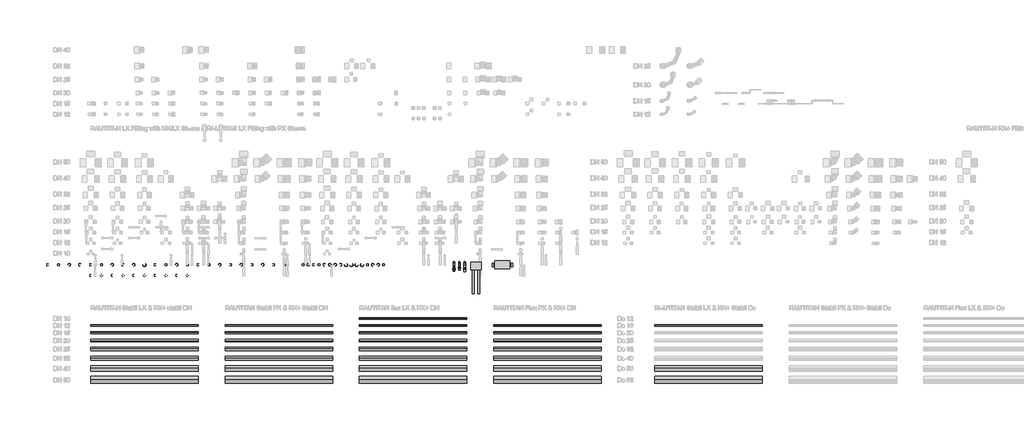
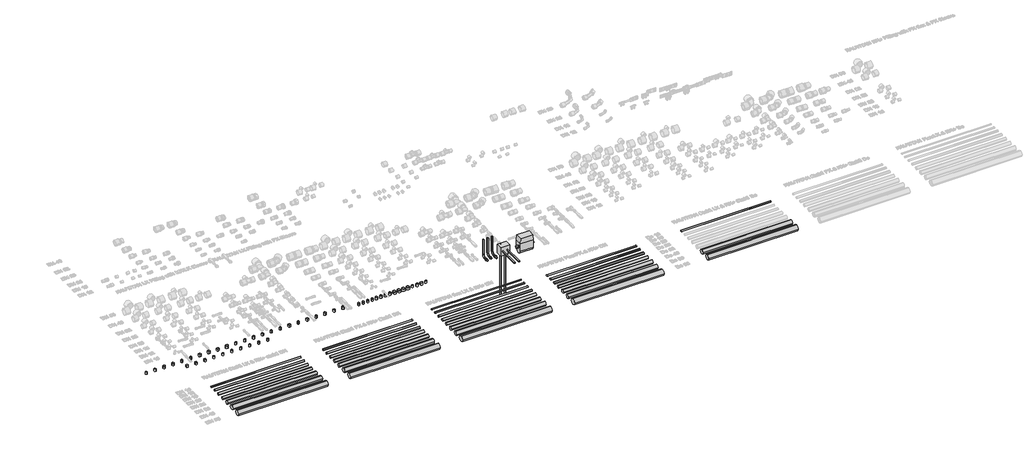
# One storey, part 1 of 18: 54 pipe fittings, 32 pipe segments.
"""IFC4 building model written with IfcOpenShell, lengths in millimetres."""

from ifc_helpers import new_model, si_unit, point, frame, frame_2d, origin, place, context, project, spatial, circle_curve, trimmed, segment, composite_curve, outline, extrude, transform, mapped, element, save
from components import pipe_fitting_8395c290, pipe_fitting_12adc400, pipe_fitting_81f8a68e, pipe_fitting_8ffa6d79, dn1_c9c9eba3, dn1_749d9a03, dn1_037c3912, rgd_206702d6

model = new_model("IFC4")

# Units and contexts
model_context = context("Model", 3, world=origin())
ifc_project = project(units=[si_unit("LENGTHUNIT", "METRE", prefix="MILLI")], contexts=[model_context])

# Site, building, storey
site = spatial("IfcSite", under=ifc_project)
building = spatial("IfcBuilding", under=site)
storey = spatial("IfcBuildingStorey", under=building, Name="REHAU Starting view", Elevation=0.0)

# Pipe fittings
placement = place(None, origin())
pipe_fitting_shape = pipe_fitting_8395c290(model_context)
element("IfcPipeFitting", 1, ObjectType="RAUTITAN_Radiator WAG16 Brass : RAUTITAN_Radiator WAG16 Brass", at=placement, inside=storey, context=model_context, shape_type="MappedRepresentation", body=[
    mapped(pipe_fitting_shape, transform((3380.0, -76.2688554, 0.0), x_axis=(1.0, 0.0, 0.0), y_axis=(0.0, 1.0, 0.0), z_axis=(0.0, 0.0, 1.0))),
])
pipe_fitting_2_shape = pipe_fitting_12adc400(model_context)
element("IfcPipeFitting", 2, ObjectType="RAUTITAN_Radiator WAG16 : RAUTITAN_Radiator WAG16", at=placement, inside=storey, context=model_context, shape_type="MappedRepresentation", body=[
    mapped(pipe_fitting_2_shape, transform((3430.0, -76.2688554, 0.0), x_axis=(1.0, 0.0, 0.0), y_axis=(0.0, 1.0, 0.0), z_axis=(0.0, 0.0, 1.0))),
])
pipe_fitting_3_shape = pipe_fitting_81f8a68e(model_context)
element("IfcPipeFitting", 3, ObjectType="RAUTITAN_Radiator WAG20 : RAUTITAN_Radiator WAG20", at=placement, inside=storey, context=model_context, shape_type="MappedRepresentation", body=[
    mapped(pipe_fitting_3_shape, transform((3480.0, -76.2688554, 0.0), x_axis=(1.0, 0.0, 0.0), y_axis=(0.0, 1.0, 0.0), z_axis=(0.0, 0.0, 1.0))),
])
pipe_fitting_4_shape = pipe_fitting_8ffa6d79(model_context)
element("IfcPipeFitting", 4, ObjectType="RAUTITAN_Radiatorconnection box : RAUTITAN_Radiatorconnection box", at=placement, inside=storey, context=model_context, shape_type="MappedRepresentation", body=[
    mapped(pipe_fitting_4_shape, transform((3585.0, -100.0, -500.0), x_axis=(1.0, 0.0, 0.0), y_axis=(0.0, 1.0, 0.0), z_axis=(0.0, 0.0, 1.0))),
])
dn1_shape = dn1_c9c9eba3(model_context)
element("IfcPipeFitting", 5, ObjectType="RAUTITAN_Sleeve PX : RTI S PX", at=placement, inside=storey, context=model_context, shape_type="MappedRepresentation", body=[
    mapped(dn1_shape, transform((100.0, -100.0, -25.5), x_axis=(0.0, 0.0, -1.0), y_axis=(0.0, 1.0, 0.0), z_axis=(1.0, 0.0, 0.0))),
])
element("IfcPipeFitting", 6, ObjectType="RAUTITAN_Sleeve PX : RTI S PX", at=placement, inside=storey, context=model_context, shape_type="MappedRepresentation", body=[
    mapped(dn1_shape, transform((600.0, -100.0, -25.5), x_axis=(0.0, 0.0, -1.0), y_axis=(0.0, 1.0, 0.0), z_axis=(1.0, 0.0, 0.0))),
])
element("IfcPipeFitting", 7, ObjectType="RAUTITAN_Sleeve PX : RTI S PX", at=placement, inside=storey, context=model_context, shape_type="MappedRepresentation", body=[
    mapped(dn1_shape, transform((699.9614721, -100.0, -25.5), x_axis=(0.0, 0.0, -1.0), y_axis=(0.0, 1.0, 0.0), z_axis=(1.0, 0.0, 0.0))),
])
element("IfcPipeFitting", 8, ObjectType="RAUTITAN_Sleeve PX : RTI S PX", at=placement, inside=storey, context=model_context, shape_type="MappedRepresentation", body=[
    mapped(dn1_shape, transform((899.8844163, -100.0, -25.5), x_axis=(0.0, 0.0, -1.0), y_axis=(0.0, 1.0, 0.0), z_axis=(1.0, 0.0, 0.0))),
])
element("IfcPipeFitting", 9, ObjectType="RAUTITAN_Sleeve PX : RTI S PX", at=placement, inside=storey, context=model_context, shape_type="MappedRepresentation", body=[
    mapped(dn1_shape, transform((999.8458884, -100.0, -25.5), x_axis=(0.0, 0.0, -1.0), y_axis=(0.0, 1.0, 0.0), z_axis=(1.0, 0.0, 0.0))),
])
element("IfcPipeFitting", 10, ObjectType="RAUTITAN_Sleeve PX : RTI S PX", at=placement, inside=storey, context=model_context, shape_type="MappedRepresentation", body=[
    mapped(dn1_shape, transform((1099.8073606, -100.0, -25.5), x_axis=(0.0, 0.0, -1.0), y_axis=(0.0, 1.0, 0.0), z_axis=(1.0, 0.0, 0.0))),
])
element("IfcPipeFitting", 11, ObjectType="RAUTITAN_Sleeve PX : RTI S PX", at=placement, inside=storey, context=model_context, shape_type="MappedRepresentation", body=[
    mapped(dn1_shape, transform((1299.7303048, -100.0, -25.5), x_axis=(0.0, 0.0, -1.0), y_axis=(0.0, 1.0, 0.0), z_axis=(1.0, 0.0, 0.0))),
])
element("IfcPipeFitting", 12, ObjectType="RAUTITAN_Sleeve PX : RTI S PX", at=placement, inside=storey, context=model_context, shape_type="MappedRepresentation", body=[
    mapped(dn1_shape, transform((1499.653249, -100.0, -25.5), x_axis=(0.0, 0.0, -1.0), y_axis=(0.0, 1.0, 0.0), z_axis=(1.0, 0.0, 0.0))),
])
element("IfcPipeFitting", 13, ObjectType="RAUTITAN_Sleeve PX : RTI S PX", at=placement, inside=storey, context=model_context, shape_type="MappedRepresentation", body=[
    mapped(dn1_shape, transform((1699.5761932, -100.0, -25.5), x_axis=(0.0, 0.0, -1.0), y_axis=(0.0, 1.0, 0.0), z_axis=(1.0, 0.0, 0.0))),
])
element("IfcPipeFitting", 14, ObjectType="RAUTITAN_Sleeve PX : RTI S PX", at=placement, inside=storey, context=model_context, shape_type="MappedRepresentation", body=[
    mapped(dn1_shape, transform((-400.0, -100.0, -25.5), x_axis=(0.0, 0.0, -1.0), y_axis=(0.0, 1.0, 0.0), z_axis=(1.0, 0.0, 0.0))),
])
element("IfcPipeFitting", 15, ObjectType="RAUTITAN_Sleeve PX : RTI S PX", at=placement, inside=storey, context=model_context, shape_type="MappedRepresentation", body=[
    mapped(dn1_shape, transform((0.0, -100.0, -25.5), x_axis=(0.0, 0.0, -1.0), y_axis=(0.0, 1.0, 0.0), z_axis=(1.0, 0.0, 0.0))),
])
element("IfcPipeFitting", 16, ObjectType="RAUTITAN_Sleeve PX : RTI S PX", at=placement, inside=storey, context=model_context, shape_type="MappedRepresentation", body=[
    mapped(dn1_shape, transform((-300.0, -100.0, -25.5), x_axis=(0.0, 0.0, -1.0), y_axis=(0.0, 1.0, 0.0), z_axis=(1.0, 0.0, 0.0))),
])
element("IfcPipeFitting", 17, ObjectType="RAUTITAN_Sleeve PX : RTI S PX", at=placement, inside=storey, context=model_context, shape_type="MappedRepresentation", body=[
    mapped(dn1_shape, transform((0.0, -200.0, -23.0), x_axis=(0.0, 0.0, -1.0), y_axis=(-1.0, 0.0, 0.0), z_axis=(0.0, 1.0, 0.0))),
])
element("IfcPipeFitting", 18, ObjectType="RAUTITAN_Sleeve PX : RTI S PX", at=placement, inside=storey, context=model_context, shape_type="MappedRepresentation", body=[
    mapped(dn1_shape, transform((100.0, -200.0, -24.3), x_axis=(0.0, 0.0, -1.0), y_axis=(-1.0, 0.0, 0.0), z_axis=(0.0, 1.0, 0.0))),
])
element("IfcPipeFitting", 19, ObjectType="RAUTITAN_Sleeve PX : RTI S PX", at=placement, inside=storey, context=model_context, shape_type="MappedRepresentation", body=[
    mapped(dn1_shape, transform((200.0, -200.0, -24.3), x_axis=(0.0, 0.0, -1.0), y_axis=(-1.0, 0.0, 0.0), z_axis=(0.0, 1.0, 0.0))),
])
element("IfcPipeFitting", 20, ObjectType="RAUTITAN_Sleeve PX : RTI S PX", at=placement, inside=storey, context=model_context, shape_type="MappedRepresentation", body=[
    mapped(dn1_shape, transform((300.0, -200.0, -24.3), x_axis=(0.0, 0.0, -1.0), y_axis=(-1.0, 0.0, 0.0), z_axis=(0.0, 1.0, 0.0))),
])
element("IfcPipeFitting", 21, ObjectType="RAUTITAN_Sleeve PX : RTI S PX", at=placement, inside=storey, context=model_context, shape_type="MappedRepresentation", body=[
    mapped(dn1_shape, transform((400.0, -200.0, -24.3), x_axis=(0.0, 0.0, -1.0), y_axis=(-1.0, 0.0, 0.0), z_axis=(0.0, 1.0, 0.0))),
])
element("IfcPipeFitting", 22, ObjectType="RAUTITAN_Sleeve PX : RTI S PX", at=placement, inside=storey, context=model_context, shape_type="MappedRepresentation", body=[
    mapped(dn1_shape, transform((500.0, -200.0, -22.3), x_axis=(0.0, 0.0, -1.0), y_axis=(-1.0, 0.0, 0.0), z_axis=(0.0, 1.0, 0.0))),
])
element("IfcPipeFitting", 23, ObjectType="RAUTITAN_Sleeve PX : RTI S PX", at=placement, inside=storey, context=model_context, shape_type="MappedRepresentation", body=[
    mapped(dn1_shape, transform((600.0, -200.0, -24.8), x_axis=(0.0, 0.0, -1.0), y_axis=(-1.0, 0.0, 0.0), z_axis=(0.0, 1.0, 0.0))),
])
element("IfcPipeFitting", 24, ObjectType="RAUTITAN_Sleeve PX : RTI S PX", at=placement, inside=storey, context=model_context, shape_type="MappedRepresentation", body=[
    mapped(dn1_shape, transform((699.9614721, -200.0, -24.8), x_axis=(0.0, 0.0, -1.0), y_axis=(-1.0, 0.0, 0.0), z_axis=(0.0, 1.0, 0.0))),
])
element("IfcPipeFitting", 25, ObjectType="RAUTITAN_Sleeve PX : RTI S PX", at=placement, inside=storey, context=model_context, shape_type="MappedRepresentation", body=[
    mapped(dn1_shape, transform((799.9229442, -200.0, -27.2), x_axis=(0.0, 0.0, -1.0), y_axis=(-1.0, 0.0, 0.0), z_axis=(0.0, 1.0, 0.0))),
])
element("IfcPipeFitting", 26, ObjectType="RAUTITAN_Sleeve PX : RTI S PX", at=placement, inside=storey, context=model_context, shape_type="MappedRepresentation", body=[
    mapped(dn1_shape, transform((899.8844163, -200.0, -27.6), x_axis=(0.0, 0.0, -1.0), y_axis=(-1.0, 0.0, 0.0), z_axis=(0.0, 1.0, 0.0))),
])
dn1_2_shape = dn1_749d9a03(model_context)
element("IfcPipeFitting", 27, ObjectType="RAUTITAN_Sleeve PX : RTI S PX", at=placement, inside=storey, context=model_context, shape_type="MappedRepresentation", body=[
    mapped(dn1_2_shape, transform((200.0, -100.0, -24.8), x_axis=(0.0, 0.0, -1.0), y_axis=(0.0, 1.0, 0.0), z_axis=(1.0, 0.0, 0.0))),
])
element("IfcPipeFitting", 28, ObjectType="RAUTITAN_Sleeve PX : RTI S PX", at=placement, inside=storey, context=model_context, shape_type="MappedRepresentation", body=[
    mapped(dn1_2_shape, transform((300.0, -100.0, -24.8), x_axis=(0.0, 0.0, -1.0), y_axis=(0.0, 1.0, 0.0), z_axis=(1.0, 0.0, 0.0))),
])
element("IfcPipeFitting", 29, ObjectType="RAUTITAN_Sleeve PX : RTI S PX", at=placement, inside=storey, context=model_context, shape_type="MappedRepresentation", body=[
    mapped(dn1_2_shape, transform((400.0, -100.0, -27.8), x_axis=(0.0, 0.0, -1.0), y_axis=(0.0, 1.0, 0.0), z_axis=(1.0, 0.0, 0.0))),
])
element("IfcPipeFitting", 30, ObjectType="RAUTITAN_Sleeve PX : RTI S PX", at=placement, inside=storey, context=model_context, shape_type="MappedRepresentation", body=[
    mapped(dn1_2_shape, transform((799.9229442, -100.0, -24.8), x_axis=(0.0, 0.0, -1.0), y_axis=(0.0, 1.0, 0.0), z_axis=(1.0, 0.0, 0.0))),
])
element("IfcPipeFitting", 31, ObjectType="RAUTITAN_Sleeve PX : RTI S PX", at=placement, inside=storey, context=model_context, shape_type="MappedRepresentation", body=[
    mapped(dn1_2_shape, transform((1199.7688327, -100.0, -24.8), x_axis=(0.0, 0.0, -1.0), y_axis=(0.0, 1.0, 0.0), z_axis=(1.0, 0.0, 0.0))),
])
element("IfcPipeFitting", 32, ObjectType="RAUTITAN_Sleeve PX : RTI S PX", at=placement, inside=storey, context=model_context, shape_type="MappedRepresentation", body=[
    mapped(dn1_2_shape, transform((1399.6917769, -100.0, -24.8), x_axis=(0.0, 0.0, -1.0), y_axis=(0.0, 1.0, 0.0), z_axis=(1.0, 0.0, 0.0))),
])
element("IfcPipeFitting", 33, ObjectType="RAUTITAN_Sleeve PX : RTI S PX", at=placement, inside=storey, context=model_context, shape_type="MappedRepresentation", body=[
    mapped(dn1_2_shape, transform((1599.6147211, -100.0, -24.8), x_axis=(0.0, 0.0, -1.0), y_axis=(0.0, 1.0, 0.0), z_axis=(1.0, 0.0, 0.0))),
])
element("IfcPipeFitting", 34, ObjectType="RAUTITAN_Sleeve PX : RTI S PX", at=placement, inside=storey, context=model_context, shape_type="MappedRepresentation", body=[
    mapped(dn1_2_shape, transform((1799.5376653, -100.0, -24.8), x_axis=(0.0, 0.0, -1.0), y_axis=(0.0, 1.0, 0.0), z_axis=(1.0, 0.0, 0.0))),
])
element("IfcPipeFitting", 35, ObjectType="RAUTITAN_Sleeve PX : RTI S PX", at=placement, inside=storey, context=model_context, shape_type="MappedRepresentation", body=[
    mapped(dn1_2_shape, transform((-200.0, -100.0, -24.8), x_axis=(0.0, 0.0, -1.0), y_axis=(0.0, 1.0, 0.0), z_axis=(1.0, 0.0, 0.0))),
])
element("IfcPipeFitting", 36, ObjectType="RAUTITAN_Sleeve PX : RTI S PX", at=placement, inside=storey, context=model_context, shape_type="MappedRepresentation", body=[
    mapped(dn1_2_shape, transform((-100.0, -100.0, -24.8), x_axis=(0.0, 0.0, -1.0), y_axis=(0.0, 1.0, 0.0), z_axis=(1.0, 0.0, 0.0))),
])
dn1_3_shape = dn1_037c3912(model_context)
element("IfcPipeFitting", 37, ObjectType="RAUTITAN_Sleeve PX : RTI S PX", at=placement, inside=storey, context=model_context, shape_type="MappedRepresentation", body=[
    mapped(dn1_3_shape, transform((500.0, -100.0, -27.5), x_axis=(0.0, 0.0, -1.0), y_axis=(0.0, 1.0, 0.0), z_axis=(1.0, 0.0, 0.0))),
])
element("IfcPipeFitting", 38, ObjectType="RAUTITAN_Sleeve PX : DN1", at=placement, inside=storey, context=model_context, shape_type="MappedRepresentation", body=[
    mapped(dn1_2_shape, transform((2174.5376653, -100.0, -43.8), x_axis=(0.0, 0.0, -1.0), y_axis=(-1.0, 0.0, 0.0), z_axis=(0.0, 1.0, 0.0))),
])
element("IfcPipeFitting", 39, ObjectType="RAUTITAN_Sleeve PX : DN1", at=placement, inside=storey, context=model_context, shape_type="MappedRepresentation", body=[
    mapped(dn1_2_shape, transform((2224.5376653, -100.0, -43.8), x_axis=(0.0, 0.0, -1.0), y_axis=(-1.0, 0.0, 0.0), z_axis=(0.0, 1.0, 0.0))),
])
element("IfcPipeFitting", 40, ObjectType="RAUTITAN_Sleeve PX : DN1", at=placement, inside=storey, context=model_context, shape_type="MappedRepresentation", body=[
    mapped(dn1_2_shape, transform((2274.5376653, -100.0, -43.8), x_axis=(0.0, 0.0, -1.0), y_axis=(-1.0, 0.0, 0.0), z_axis=(0.0, 1.0, 0.0))),
])
element("IfcPipeFitting", 41, ObjectType="RAUTITAN_Sleeve PX : DN1", at=placement, inside=storey, context=model_context, shape_type="MappedRepresentation", body=[
    mapped(dn1_2_shape, transform((2324.5376653, -100.0, -43.8), x_axis=(0.0, 0.0, -1.0), y_axis=(-1.0, 0.0, 0.0), z_axis=(0.0, 1.0, 0.0))),
])
element("IfcPipeFitting", 42, ObjectType="RAUTITAN_Sleeve PX : DN1", at=placement, inside=storey, context=model_context, shape_type="MappedRepresentation", body=[
    mapped(dn1_2_shape, transform((2624.5376653, -100.0, -43.8), x_axis=(0.0, 0.0, -1.0), y_axis=(-1.0, 0.0, 0.0), z_axis=(0.0, 1.0, 0.0))),
])
element("IfcPipeFitting", 43, ObjectType="RAUTITAN_Sleeve PX : DN1", at=placement, inside=storey, context=model_context, shape_type="MappedRepresentation", body=[
    mapped(dn1_2_shape, transform((2674.5376653, -100.0, -43.8), x_axis=(0.0, 0.0, -1.0), y_axis=(-1.0, 0.0, 0.0), z_axis=(0.0, 1.0, 0.0))),
])
element("IfcPipeFitting", 44, ObjectType="RAUTITAN_Sleeve PX : DN1", at=placement, inside=storey, context=model_context, shape_type="MappedRepresentation", body=[
    mapped(dn1_shape, transform((1974.5376653, -100.0, -43.3), x_axis=(0.0, 0.0, -1.0), y_axis=(-1.0, 0.0, 0.0), z_axis=(0.0, 1.0, 0.0))),
])
element("IfcPipeFitting", 45, ObjectType="RAUTITAN_Sleeve PX : DN1", at=placement, inside=storey, context=model_context, shape_type="MappedRepresentation", body=[
    mapped(dn1_shape, transform((2024.5376653, -100.0, -43.3), x_axis=(0.0, 0.0, -1.0), y_axis=(-1.0, 0.0, 0.0), z_axis=(0.0, 1.0, 0.0))),
])
element("IfcPipeFitting", 46, ObjectType="RAUTITAN_Sleeve PX : DN1", at=placement, inside=storey, context=model_context, shape_type="MappedRepresentation", body=[
    mapped(dn1_shape, transform((2074.5376653, -100.0, -43.3), x_axis=(0.0, 0.0, -1.0), y_axis=(-1.0, 0.0, 0.0), z_axis=(0.0, 1.0, 0.0))),
])
element("IfcPipeFitting", 47, ObjectType="RAUTITAN_Sleeve PX : DN1", at=placement, inside=storey, context=model_context, shape_type="MappedRepresentation", body=[
    mapped(dn1_shape, transform((2124.5376653, -100.0, -43.3), x_axis=(0.0, 0.0, -1.0), y_axis=(-1.0, 0.0, 0.0), z_axis=(0.0, 1.0, 0.0))),
])
element("IfcPipeFitting", 48, ObjectType="RAUTITAN_Sleeve PX : DN1", at=placement, inside=storey, context=model_context, shape_type="MappedRepresentation", body=[
    mapped(dn1_shape, transform((2574.5376653, -100.0, -43.3), x_axis=(0.0, 0.0, -1.0), y_axis=(-1.0, 0.0, 0.0), z_axis=(0.0, 1.0, 0.0))),
])
element("IfcPipeFitting", 49, ObjectType="RAUTITAN_Sleeve PX : DN1", at=placement, inside=storey, context=model_context, shape_type="MappedRepresentation", body=[
    mapped(dn1_shape, transform((2724.5376653, -100.0, -43.3), x_axis=(0.0, 0.0, -1.0), y_axis=(-1.0, 0.0, 0.0), z_axis=(0.0, 1.0, 0.0))),
])
element("IfcPipeFitting", 50, ObjectType="RAUTITAN_Sleeve PX : DN1", at=placement, inside=storey, context=model_context, shape_type="MappedRepresentation", body=[
    mapped(dn1_3_shape, transform((2374.5376653, -100.0, -44.2), x_axis=(0.0, 0.0, -1.0), y_axis=(-1.0, 0.0, 0.0), z_axis=(0.0, 1.0, 0.0))),
])
element("IfcPipeFitting", 51, ObjectType="RAUTITAN_Sleeve PX : DN1", at=placement, inside=storey, context=model_context, shape_type="MappedRepresentation", body=[
    mapped(dn1_3_shape, transform((2424.5376653, -100.0, -44.2), x_axis=(0.0, 0.0, -1.0), y_axis=(-1.0, 0.0, 0.0), z_axis=(0.0, 1.0, 0.0))),
])
element("IfcPipeFitting", 52, ObjectType="RAUTITAN_Sleeve PX : DN1", at=placement, inside=storey, context=model_context, shape_type="MappedRepresentation", body=[
    mapped(dn1_3_shape, transform((2474.5376653, -100.0, -44.2), x_axis=(0.0, 0.0, -1.0), y_axis=(-1.0, 0.0, 0.0), z_axis=(0.0, 1.0, 0.0))),
])
element("IfcPipeFitting", 53, ObjectType="RAUTITAN_Sleeve PX : DN1", at=placement, inside=storey, context=model_context, shape_type="MappedRepresentation", body=[
    mapped(dn1_3_shape, transform((2524.5376653, -100.0, -44.2), x_axis=(0.0, 0.0, -1.0), y_axis=(-1.0, 0.0, 0.0), z_axis=(0.0, 1.0, 0.0))),
])
rgd_shape = rgd_206702d6(model_context)
element("IfcPipeFitting", 54, ObjectType="RE.GUARD : RGD", at=placement, inside=storey, context=model_context, shape_type="MappedRepresentation", body=[
    mapped(rgd_shape, transform((3830.0, -115.0294975, 0.0), x_axis=(1.0, 0.0, 0.0), y_axis=(0.0, 1.0, 0.0), z_axis=(0.0, 0.0, 1.0))),
])

# Pipe segments
element("IfcPipeSegment", 55, ObjectType="RAUTITAN Stabil LX & RX+ stabil DN", at=placement, inside=storey, context=model_context, shape_type="SweptSolid", body=[
    extrude(outline(composite_curve([segment(trimmed(circle_curve(frame_2d((-664.1, 0.0)), 8.1), [point((-672.2, 0.0))], [point((-664.1, 8.1))], False, "CARTESIAN"), True, "CONTINUOUS"), segment(trimmed(circle_curve(frame_2d((-664.1, 0.0)), 8.1), [point((-664.1, 8.1))], [point((-656.0, 0.0))], False, "CARTESIAN"), True, "CONTINUOUS"), segment(trimmed(circle_curve(frame_2d((-664.1, 0.0)), 8.1), [point((-656.0, 0.0))], [point((-664.1, -8.1))], False, "CARTESIAN"), True, "CONTINUOUS"), segment(trimmed(circle_curve(frame_2d((-664.1, 0.0)), 8.1), [point((-664.1, -8.1))], [point((-672.2, 0.0))], False, "CARTESIAN"), True, "CONTINUOUS")], self_intersect=False)), frame((0.0, 0.0, 0.0), z_axis=(1.0, 0.0, 0.0), x_axis=(0.0, 1.0, 0.0)), (0.0, 0.0, 1.0), 1000.0),
])
element("IfcPipeSegment", 56, ObjectType="RAUTITAN flex LX & RX+ DN", at=placement, inside=storey, context=model_context, shape_type="SweptSolid", body=[
    extrude(outline(composite_curve([segment(trimmed(circle_curve(frame_2d((-600.0, 0.0)), 6.0), [point((-606.0, 0.0))], [point((-600.0, 6.0))], False, "CARTESIAN"), True, "CONTINUOUS"), segment(trimmed(circle_curve(frame_2d((-600.0, 0.0)), 6.0), [point((-600.0, 6.0))], [point((-594.0, 0.0))], False, "CARTESIAN"), True, "CONTINUOUS"), segment(trimmed(circle_curve(frame_2d((-600.0, 0.0)), 6.0), [point((-594.0, 0.0))], [point((-600.0, -6.0))], False, "CARTESIAN"), True, "CONTINUOUS"), segment(trimmed(circle_curve(frame_2d((-600.0, 0.0)), 6.0), [point((-600.0, -6.0))], [point((-606.0, 0.0))], False, "CARTESIAN"), True, "CONTINUOUS")], self_intersect=False)), frame((2500.0, 0.0, 0.0), z_axis=(1.0, 0.0, 0.0), x_axis=(0.0, 1.0, 0.0)), (0.0, 0.0, 1.0), 1000.0),
])
element("IfcPipeSegment", 57, ObjectType="RAUTITAN Stabil LX & RX+ stabil DN", at=placement, inside=storey, context=model_context, shape_type="SweptSolid", body=[
    extrude(outline(composite_curve([segment(trimmed(circle_curve(frame_2d((-732.2, 0.0)), 10.0), [point((-742.2, 0.0))], [point((-732.2, 10.0))], False, "CARTESIAN"), True, "CONTINUOUS"), segment(trimmed(circle_curve(frame_2d((-732.2, 0.0)), 10.0), [point((-732.2, 10.0))], [point((-722.2, 0.0))], False, "CARTESIAN"), True, "CONTINUOUS"), segment(trimmed(circle_curve(frame_2d((-732.2, 0.0)), 10.0), [point((-722.2, 0.0))], [point((-732.2, -10.0))], False, "CARTESIAN"), True, "CONTINUOUS"), segment(trimmed(circle_curve(frame_2d((-732.2, 0.0)), 10.0), [point((-732.2, -10.0))], [point((-742.2, 0.0))], False, "CARTESIAN"), True, "CONTINUOUS")], self_intersect=False)), frame((0.0, 0.0, 0.0), z_axis=(1.0, 0.0, 0.0), x_axis=(0.0, 1.0, 0.0)), (0.0, 0.0, 1.0), 1000.0),
])
element("IfcPipeSegment", 58, ObjectType="RAUTITAN Stabil LX & RX+ stabil DN", at=placement, inside=storey, context=model_context, shape_type="SweptSolid", body=[
    extrude(outline(composite_curve([segment(trimmed(circle_curve(frame_2d((-804.7, 0.0)), 12.5), [point((-817.2, 0.0))], [point((-804.7, 12.5))], False, "CARTESIAN"), True, "CONTINUOUS"), segment(trimmed(circle_curve(frame_2d((-804.7, 0.0)), 12.5), [point((-804.7, 12.5))], [point((-792.2, 0.0))], False, "CARTESIAN"), True, "CONTINUOUS"), segment(trimmed(circle_curve(frame_2d((-804.7, 0.0)), 12.5), [point((-792.2, 0.0))], [point((-804.7, -12.5))], False, "CARTESIAN"), True, "CONTINUOUS"), segment(trimmed(circle_curve(frame_2d((-804.7, 0.0)), 12.5), [point((-804.7, -12.5))], [point((-817.2, 0.0))], False, "CARTESIAN"), True, "CONTINUOUS")], self_intersect=False)), frame((0.0, 0.0, 0.0), z_axis=(1.0, 0.0, 0.0), x_axis=(0.0, 1.0, 0.0)), (0.0, 0.0, 1.0), 1000.0),
])
element("IfcPipeSegment", 59, ObjectType="RAUTITAN Stabil LX & RX+ stabil DN", at=placement, inside=storey, context=model_context, shape_type="SweptSolid", body=[
    extrude(outline(composite_curve([segment(trimmed(circle_curve(frame_2d((-969.2, 0.0)), 20.0), [point((-989.2, 0.0))], [point((-969.2, 20.0))], False, "CARTESIAN"), True, "CONTINUOUS"), segment(trimmed(circle_curve(frame_2d((-969.2, 0.0)), 20.0), [point((-969.2, 20.0))], [point((-949.2, 0.0))], False, "CARTESIAN"), True, "CONTINUOUS"), segment(trimmed(circle_curve(frame_2d((-969.2, 0.0)), 20.0), [point((-949.2, 0.0))], [point((-969.2, -20.0))], False, "CARTESIAN"), True, "CONTINUOUS"), segment(trimmed(circle_curve(frame_2d((-969.2, 0.0)), 20.0), [point((-969.2, -20.0))], [point((-989.2, 0.0))], False, "CARTESIAN"), True, "CONTINUOUS")], self_intersect=False)), frame((0.0, 0.0, 0.0), z_axis=(1.0, 0.0, 0.0), x_axis=(0.0, 1.0, 0.0)), (0.0, 0.0, 1.0), 1000.0),
])
element("IfcPipeSegment", 60, ObjectType="RAUTITAN Stabil LX & RX+ stabil DN", at=placement, inside=storey, context=model_context, shape_type="SweptSolid", body=[
    extrude(outline(composite_curve([segment(trimmed(circle_curve(frame_2d((-1064.2, 0.0)), 25.0), [point((-1089.2, 0.0))], [point((-1064.2, 25.0))], False, "CARTESIAN"), True, "CONTINUOUS"), segment(trimmed(circle_curve(frame_2d((-1064.2, 0.0)), 25.0), [point((-1064.2, 25.0))], [point((-1039.2, 0.0))], False, "CARTESIAN"), True, "CONTINUOUS"), segment(trimmed(circle_curve(frame_2d((-1064.2, 0.0)), 25.0), [point((-1039.2, 0.0))], [point((-1064.2, -25.0))], False, "CARTESIAN"), True, "CONTINUOUS"), segment(trimmed(circle_curve(frame_2d((-1064.2, 0.0)), 25.0), [point((-1064.2, -25.0))], [point((-1089.2, 0.0))], False, "CARTESIAN"), True, "CONTINUOUS")], self_intersect=False)), frame((0.0, 0.0, 0.0), z_axis=(1.0, 0.0, 0.0), x_axis=(0.0, 1.0, 0.0)), (0.0, 0.0, 1.0), 1000.0),
])
element("IfcPipeSegment", 61, ObjectType="RAUTITAN Stabil LX & RX+ stabil DN", at=placement, inside=storey, context=model_context, shape_type="SweptSolid", body=[
    extrude(outline(composite_curve([segment(trimmed(circle_curve(frame_2d((-1170.7, 0.0)), 31.5), [point((-1202.2, 0.0))], [point((-1170.7, 31.5))], False, "CARTESIAN"), True, "CONTINUOUS"), segment(trimmed(circle_curve(frame_2d((-1170.7, 0.0)), 31.5), [point((-1170.7, 31.5))], [point((-1139.2, 0.0))], False, "CARTESIAN"), True, "CONTINUOUS"), segment(trimmed(circle_curve(frame_2d((-1170.7, 0.0)), 31.5), [point((-1139.2, 0.0))], [point((-1170.7, -31.5))], False, "CARTESIAN"), True, "CONTINUOUS"), segment(trimmed(circle_curve(frame_2d((-1170.7, 0.0)), 31.5), [point((-1170.7, -31.5))], [point((-1202.2, 0.0))], False, "CARTESIAN"), True, "CONTINUOUS")], self_intersect=False)), frame((0.0, 0.0, 0.0), z_axis=(1.0, 0.0, 0.0), x_axis=(0.0, 1.0, 0.0)), (0.0, 0.0, 1.0), 1000.0),
])
element("IfcPipeSegment", 62, ObjectType="RAUTITAN Stabil LX & RX+ stabil DN", at=placement, inside=storey, context=model_context, shape_type="SweptSolid", body=[
    extrude(outline(composite_curve([segment(trimmed(circle_curve(frame_2d((-883.2, 0.0)), 16.0), [point((-899.2, 0.0))], [point((-883.2, 16.0))], False, "CARTESIAN"), True, "CONTINUOUS"), segment(trimmed(circle_curve(frame_2d((-883.2, 0.0)), 16.0), [point((-883.2, 16.0))], [point((-867.2, 0.0))], False, "CARTESIAN"), True, "CONTINUOUS"), segment(trimmed(circle_curve(frame_2d((-883.2, 0.0)), 16.0), [point((-867.2, 0.0))], [point((-883.2, -16.0))], False, "CARTESIAN"), True, "CONTINUOUS"), segment(trimmed(circle_curve(frame_2d((-883.2, 0.0)), 16.0), [point((-883.2, -16.0))], [point((-899.2, 0.0))], False, "CARTESIAN"), True, "CONTINUOUS")], self_intersect=False)), frame((0.0, 0.0, 0.0), z_axis=(1.0, 0.0, 0.0), x_axis=(0.0, 1.0, 0.0)), (0.0, 0.0, 1.0), 1000.0),
])
element("IfcPipeSegment", 63, ObjectType="RAUTITAN flex LX & RX+ DN", at=placement, inside=storey, context=model_context, shape_type="SweptSolid", body=[
    extrude(outline(composite_curve([segment(trimmed(circle_curve(frame_2d((-664.1, 0.0)), 8.0), [point((-672.1, 0.0))], [point((-664.1, 8.0))], False, "CARTESIAN"), True, "CONTINUOUS"), segment(trimmed(circle_curve(frame_2d((-664.1, 0.0)), 8.0), [point((-664.1, 8.0))], [point((-656.1, 0.0))], False, "CARTESIAN"), True, "CONTINUOUS"), segment(trimmed(circle_curve(frame_2d((-664.1, 0.0)), 8.0), [point((-656.1, 0.0))], [point((-664.1, -8.0))], False, "CARTESIAN"), True, "CONTINUOUS"), segment(trimmed(circle_curve(frame_2d((-664.1, 0.0)), 8.0), [point((-664.1, -8.0))], [point((-672.1, 0.0))], False, "CARTESIAN"), True, "CONTINUOUS")], self_intersect=False)), frame((2500.0, 0.0, 0.0), z_axis=(1.0, 0.0, 0.0), x_axis=(0.0, 1.0, 0.0)), (0.0, 0.0, 1.0), 1000.0),
])
element("IfcPipeSegment", 64, ObjectType="RAUTITAN flex LX & RX+ DN", at=placement, inside=storey, context=model_context, shape_type="SweptSolid", body=[
    extrude(outline(composite_curve([segment(trimmed(circle_curve(frame_2d((-732.2, 0.0)), 10.0), [point((-742.2, 0.0))], [point((-732.2, 10.0))], False, "CARTESIAN"), True, "CONTINUOUS"), segment(trimmed(circle_curve(frame_2d((-732.2, 0.0)), 10.0), [point((-732.2, 10.0))], [point((-722.2, 0.0))], False, "CARTESIAN"), True, "CONTINUOUS"), segment(trimmed(circle_curve(frame_2d((-732.2, 0.0)), 10.0), [point((-722.2, 0.0))], [point((-732.2, -10.0))], False, "CARTESIAN"), True, "CONTINUOUS"), segment(trimmed(circle_curve(frame_2d((-732.2, 0.0)), 10.0), [point((-732.2, -10.0))], [point((-742.2, 0.0))], False, "CARTESIAN"), True, "CONTINUOUS")], self_intersect=False)), frame((2500.0, 0.0, 0.0), z_axis=(1.0, 0.0, 0.0), x_axis=(0.0, 1.0, 0.0)), (0.0, 0.0, 1.0), 1000.0),
])
element("IfcPipeSegment", 65, ObjectType="RAUTITAN flex LX & RX+ DN", at=placement, inside=storey, context=model_context, shape_type="SweptSolid", body=[
    extrude(outline(composite_curve([segment(trimmed(circle_curve(frame_2d((-804.7, 0.0)), 12.5), [point((-817.2, 0.0))], [point((-804.7, 12.5))], False, "CARTESIAN"), True, "CONTINUOUS"), segment(trimmed(circle_curve(frame_2d((-804.7, 0.0)), 12.5), [point((-804.7, 12.5))], [point((-792.2, 0.0))], False, "CARTESIAN"), True, "CONTINUOUS"), segment(trimmed(circle_curve(frame_2d((-804.7, 0.0)), 12.5), [point((-792.2, 0.0))], [point((-804.7, -12.5))], False, "CARTESIAN"), True, "CONTINUOUS"), segment(trimmed(circle_curve(frame_2d((-804.7, 0.0)), 12.5), [point((-804.7, -12.5))], [point((-817.2, 0.0))], False, "CARTESIAN"), True, "CONTINUOUS")], self_intersect=False)), frame((2500.0, 0.0, 0.0), z_axis=(1.0, 0.0, 0.0), x_axis=(0.0, 1.0, 0.0)), (0.0, 0.0, 1.0), 1000.0),
])
element("IfcPipeSegment", 66, ObjectType="RAUTITAN flex LX & RX+ DN", at=placement, inside=storey, context=model_context, shape_type="SweptSolid", body=[
    extrude(outline(composite_curve([segment(trimmed(circle_curve(frame_2d((-883.2, 0.0)), 16.0), [point((-899.2, 0.0))], [point((-883.2, 16.0))], False, "CARTESIAN"), True, "CONTINUOUS"), segment(trimmed(circle_curve(frame_2d((-883.2, 0.0)), 16.0), [point((-883.2, 16.0))], [point((-867.2, 0.0))], False, "CARTESIAN"), True, "CONTINUOUS"), segment(trimmed(circle_curve(frame_2d((-883.2, 0.0)), 16.0), [point((-867.2, 0.0))], [point((-883.2, -16.0))], False, "CARTESIAN"), True, "CONTINUOUS"), segment(trimmed(circle_curve(frame_2d((-883.2, 0.0)), 16.0), [point((-883.2, -16.0))], [point((-899.2, 0.0))], False, "CARTESIAN"), True, "CONTINUOUS")], self_intersect=False)), frame((2500.0, 0.0, 0.0), z_axis=(1.0, 0.0, 0.0), x_axis=(0.0, 1.0, 0.0)), (0.0, 0.0, 1.0), 1000.0),
])
element("IfcPipeSegment", 67, ObjectType="RAUTITAN flex LX & RX+ DN", at=placement, inside=storey, context=model_context, shape_type="SweptSolid", body=[
    extrude(outline(composite_curve([segment(trimmed(circle_curve(frame_2d((-969.2, 0.0)), 20.0), [point((-989.2, 0.0))], [point((-969.2, 20.0))], False, "CARTESIAN"), True, "CONTINUOUS"), segment(trimmed(circle_curve(frame_2d((-969.2, 0.0)), 20.0), [point((-969.2, 20.0))], [point((-949.2, 0.0))], False, "CARTESIAN"), True, "CONTINUOUS"), segment(trimmed(circle_curve(frame_2d((-969.2, 0.0)), 20.0), [point((-949.2, 0.0))], [point((-969.2, -20.0))], False, "CARTESIAN"), True, "CONTINUOUS"), segment(trimmed(circle_curve(frame_2d((-969.2, 0.0)), 20.0), [point((-969.2, -20.0))], [point((-989.2, 0.0))], False, "CARTESIAN"), True, "CONTINUOUS")], self_intersect=False)), frame((2500.0, 0.0, 0.0), z_axis=(1.0, 0.0, 0.0), x_axis=(0.0, 1.0, 0.0)), (0.0, 0.0, 1.0), 1000.0),
])
element("IfcPipeSegment", 68, ObjectType="RAUTITAN flex LX & RX+ DN", at=placement, inside=storey, context=model_context, shape_type="SweptSolid", body=[
    extrude(outline(composite_curve([segment(trimmed(circle_curve(frame_2d((-1064.2, 0.0)), 25.0), [point((-1089.2, 0.0))], [point((-1064.2, 25.0))], False, "CARTESIAN"), True, "CONTINUOUS"), segment(trimmed(circle_curve(frame_2d((-1064.2, 0.0)), 25.0), [point((-1064.2, 25.0))], [point((-1039.2, 0.0))], False, "CARTESIAN"), True, "CONTINUOUS"), segment(trimmed(circle_curve(frame_2d((-1064.2, 0.0)), 25.0), [point((-1039.2, 0.0))], [point((-1064.2, -25.0))], False, "CARTESIAN"), True, "CONTINUOUS"), segment(trimmed(circle_curve(frame_2d((-1064.2, 0.0)), 25.0), [point((-1064.2, -25.0))], [point((-1089.2, 0.0))], False, "CARTESIAN"), True, "CONTINUOUS")], self_intersect=False)), frame((2500.0, 0.0, 0.0), z_axis=(1.0, 0.0, 0.0), x_axis=(0.0, 1.0, 0.0)), (0.0, 0.0, 1.0), 1000.0),
])
element("IfcPipeSegment", 69, ObjectType="RAUTITAN flex LX & RX+ DN", at=placement, inside=storey, context=model_context, shape_type="SweptSolid", body=[
    extrude(outline(composite_curve([segment(trimmed(circle_curve(frame_2d((-1170.7, 0.0)), 31.5), [point((-1202.2, 0.0))], [point((-1170.7, 31.5))], False, "CARTESIAN"), True, "CONTINUOUS"), segment(trimmed(circle_curve(frame_2d((-1170.7, 0.0)), 31.5), [point((-1170.7, 31.5))], [point((-1139.2, 0.0))], False, "CARTESIAN"), True, "CONTINUOUS"), segment(trimmed(circle_curve(frame_2d((-1170.7, 0.0)), 31.5), [point((-1139.2, 0.0))], [point((-1170.7, -31.5))], False, "CARTESIAN"), True, "CONTINUOUS"), segment(trimmed(circle_curve(frame_2d((-1170.7, 0.0)), 31.5), [point((-1170.7, -31.5))], [point((-1202.2, 0.0))], False, "CARTESIAN"), True, "CONTINUOUS")], self_intersect=False)), frame((2500.0, 0.0, 0.0), z_axis=(1.0, 0.0, 0.0), x_axis=(0.0, 1.0, 0.0)), (0.0, 0.0, 1.0), 1000.0),
])
element("IfcPipeSegment", 70, ObjectType="RAUTITAN Stabil PX & RX+ Stabil DN", at=placement, inside=storey, context=model_context, shape_type="SweptSolid", body=[
    extrude(outline(composite_curve([segment(trimmed(circle_curve(frame_2d((-664.1, 0.0)), 8.1), [point((-672.2, 0.0))], [point((-664.1, 8.1))], False, "CARTESIAN"), True, "CONTINUOUS"), segment(trimmed(circle_curve(frame_2d((-664.1, 0.0)), 8.1), [point((-664.1, 8.1))], [point((-656.0, 0.0))], False, "CARTESIAN"), True, "CONTINUOUS"), segment(trimmed(circle_curve(frame_2d((-664.1, 0.0)), 8.1), [point((-656.0, 0.0))], [point((-664.1, -8.1))], False, "CARTESIAN"), True, "CONTINUOUS"), segment(trimmed(circle_curve(frame_2d((-664.1, 0.0)), 8.1), [point((-664.1, -8.1))], [point((-672.2, 0.0))], False, "CARTESIAN"), True, "CONTINUOUS")], self_intersect=False)), frame((1250.0, 0.0, 0.0), z_axis=(1.0, 0.0, 0.0), x_axis=(0.0, 1.0, 0.0)), (0.0, 0.0, 1.0), 1000.0),
])
element("IfcPipeSegment", 71, ObjectType="RAUTITAN Stabil PX & RX+ Stabil DN", at=placement, inside=storey, context=model_context, shape_type="SweptSolid", body=[
    extrude(outline(composite_curve([segment(trimmed(circle_curve(frame_2d((-732.2, 0.0)), 10.0), [point((-742.2, 0.0))], [point((-732.2, 10.0))], False, "CARTESIAN"), True, "CONTINUOUS"), segment(trimmed(circle_curve(frame_2d((-732.2, 0.0)), 10.0), [point((-732.2, 10.0))], [point((-722.2, 0.0))], False, "CARTESIAN"), True, "CONTINUOUS"), segment(trimmed(circle_curve(frame_2d((-732.2, 0.0)), 10.0), [point((-722.2, 0.0))], [point((-732.2, -10.0))], False, "CARTESIAN"), True, "CONTINUOUS"), segment(trimmed(circle_curve(frame_2d((-732.2, 0.0)), 10.0), [point((-732.2, -10.0))], [point((-742.2, 0.0))], False, "CARTESIAN"), True, "CONTINUOUS")], self_intersect=False)), frame((1250.0, 0.0, 0.0), z_axis=(1.0, 0.0, 0.0), x_axis=(0.0, 1.0, 0.0)), (0.0, 0.0, 1.0), 1000.0),
])
element("IfcPipeSegment", 72, ObjectType="RAUTITAN Stabil PX & RX+ Stabil DN", at=placement, inside=storey, context=model_context, shape_type="SweptSolid", body=[
    extrude(outline(composite_curve([segment(trimmed(circle_curve(frame_2d((-804.7, 0.0)), 12.5), [point((-817.2, 0.0))], [point((-804.7, 12.5))], False, "CARTESIAN"), True, "CONTINUOUS"), segment(trimmed(circle_curve(frame_2d((-804.7, 0.0)), 12.5), [point((-804.7, 12.5))], [point((-792.2, 0.0))], False, "CARTESIAN"), True, "CONTINUOUS"), segment(trimmed(circle_curve(frame_2d((-804.7, 0.0)), 12.5), [point((-792.2, 0.0))], [point((-804.7, -12.5))], False, "CARTESIAN"), True, "CONTINUOUS"), segment(trimmed(circle_curve(frame_2d((-804.7, 0.0)), 12.5), [point((-804.7, -12.5))], [point((-817.2, 0.0))], False, "CARTESIAN"), True, "CONTINUOUS")], self_intersect=False)), frame((1250.0, 0.0, 0.0), z_axis=(1.0, 0.0, 0.0), x_axis=(0.0, 1.0, 0.0)), (0.0, 0.0, 1.0), 1000.0),
])
element("IfcPipeSegment", 73, ObjectType="RAUTITAN Stabil PX & RX+ Stabil DN", at=placement, inside=storey, context=model_context, shape_type="SweptSolid", body=[
    extrude(outline(composite_curve([segment(trimmed(circle_curve(frame_2d((-969.2, 0.0)), 20.0), [point((-989.2, 0.0))], [point((-969.2, 20.0))], False, "CARTESIAN"), True, "CONTINUOUS"), segment(trimmed(circle_curve(frame_2d((-969.2, 0.0)), 20.0), [point((-969.2, 20.0))], [point((-949.2, 0.0))], False, "CARTESIAN"), True, "CONTINUOUS"), segment(trimmed(circle_curve(frame_2d((-969.2, 0.0)), 20.0), [point((-949.2, 0.0))], [point((-969.2, -20.0))], False, "CARTESIAN"), True, "CONTINUOUS"), segment(trimmed(circle_curve(frame_2d((-969.2, 0.0)), 20.0), [point((-969.2, -20.0))], [point((-989.2, 0.0))], False, "CARTESIAN"), True, "CONTINUOUS")], self_intersect=False)), frame((1250.0, 0.0, 0.0), z_axis=(1.0, 0.0, 0.0), x_axis=(0.0, 1.0, 0.0)), (0.0, 0.0, 1.0), 1000.0),
])
element("IfcPipeSegment", 74, ObjectType="RAUTITAN Stabil PX & RX+ Stabil DN", at=placement, inside=storey, context=model_context, shape_type="SweptSolid", body=[
    extrude(outline(composite_curve([segment(trimmed(circle_curve(frame_2d((-1064.2, 0.0)), 25.0), [point((-1089.2, 0.0))], [point((-1064.2, 25.0))], False, "CARTESIAN"), True, "CONTINUOUS"), segment(trimmed(circle_curve(frame_2d((-1064.2, 0.0)), 25.0), [point((-1064.2, 25.0))], [point((-1039.2, 0.0))], False, "CARTESIAN"), True, "CONTINUOUS"), segment(trimmed(circle_curve(frame_2d((-1064.2, 0.0)), 25.0), [point((-1039.2, 0.0))], [point((-1064.2, -25.0))], False, "CARTESIAN"), True, "CONTINUOUS"), segment(trimmed(circle_curve(frame_2d((-1064.2, 0.0)), 25.0), [point((-1064.2, -25.0))], [point((-1089.2, 0.0))], False, "CARTESIAN"), True, "CONTINUOUS")], self_intersect=False)), frame((1250.0, 0.0, 0.0), z_axis=(1.0, 0.0, 0.0), x_axis=(0.0, 1.0, 0.0)), (0.0, 0.0, 1.0), 1000.0),
])
element("IfcPipeSegment", 75, ObjectType="RAUTITAN Stabil PX & RX+ Stabil DN", at=placement, inside=storey, context=model_context, shape_type="SweptSolid", body=[
    extrude(outline(composite_curve([segment(trimmed(circle_curve(frame_2d((-1170.7, 0.0)), 31.5), [point((-1202.2, 0.0))], [point((-1170.7, 31.5))], False, "CARTESIAN"), True, "CONTINUOUS"), segment(trimmed(circle_curve(frame_2d((-1170.7, 0.0)), 31.5), [point((-1170.7, 31.5))], [point((-1139.2, 0.0))], False, "CARTESIAN"), True, "CONTINUOUS"), segment(trimmed(circle_curve(frame_2d((-1170.7, 0.0)), 31.5), [point((-1139.2, 0.0))], [point((-1170.7, -31.5))], False, "CARTESIAN"), True, "CONTINUOUS"), segment(trimmed(circle_curve(frame_2d((-1170.7, 0.0)), 31.5), [point((-1170.7, -31.5))], [point((-1202.2, 0.0))], False, "CARTESIAN"), True, "CONTINUOUS")], self_intersect=False)), frame((1250.0, 0.0, 0.0), z_axis=(1.0, 0.0, 0.0), x_axis=(0.0, 1.0, 0.0)), (0.0, 0.0, 1.0), 1000.0),
])
element("IfcPipeSegment", 76, ObjectType="RAUTITAN Stabil PX & RX+ Stabil DN", at=placement, inside=storey, context=model_context, shape_type="SweptSolid", body=[
    extrude(outline(composite_curve([segment(trimmed(circle_curve(frame_2d((-883.2, 0.0)), 16.0), [point((-899.2, 0.0))], [point((-883.2, 16.0))], False, "CARTESIAN"), True, "CONTINUOUS"), segment(trimmed(circle_curve(frame_2d((-883.2, 0.0)), 16.0), [point((-883.2, 16.0))], [point((-867.2, 0.0))], False, "CARTESIAN"), True, "CONTINUOUS"), segment(trimmed(circle_curve(frame_2d((-883.2, 0.0)), 16.0), [point((-867.2, 0.0))], [point((-883.2, -16.0))], False, "CARTESIAN"), True, "CONTINUOUS"), segment(trimmed(circle_curve(frame_2d((-883.2, 0.0)), 16.0), [point((-883.2, -16.0))], [point((-899.2, 0.0))], False, "CARTESIAN"), True, "CONTINUOUS")], self_intersect=False)), frame((1250.0, 0.0, 0.0), z_axis=(1.0, 0.0, 0.0), x_axis=(0.0, 1.0, 0.0)), (0.0, 0.0, 1.0), 1000.0),
])
element("IfcPipeSegment", 77, ObjectType="RAUTITAN Flex PX & RX+ DN", at=placement, inside=storey, context=model_context, shape_type="SweptSolid", body=[
    extrude(outline(composite_curve([segment(trimmed(circle_curve(frame_2d((-664.1, 0.0)), 8.0), [point((-672.1, 0.0))], [point((-664.1, 8.0))], False, "CARTESIAN"), True, "CONTINUOUS"), segment(trimmed(circle_curve(frame_2d((-664.1, 0.0)), 8.0), [point((-664.1, 8.0))], [point((-656.1, 0.0))], False, "CARTESIAN"), True, "CONTINUOUS"), segment(trimmed(circle_curve(frame_2d((-664.1, 0.0)), 8.0), [point((-656.1, 0.0))], [point((-664.1, -8.0))], False, "CARTESIAN"), True, "CONTINUOUS"), segment(trimmed(circle_curve(frame_2d((-664.1, 0.0)), 8.0), [point((-664.1, -8.0))], [point((-672.1, 0.0))], False, "CARTESIAN"), True, "CONTINUOUS")], self_intersect=False)), frame((3750.0, 0.0, 0.0), z_axis=(1.0, 0.0, 0.0), x_axis=(0.0, 1.0, 0.0)), (0.0, 0.0, 1.0), 1000.0),
])
element("IfcPipeSegment", 78, ObjectType="RAUTITAN Flex PX & RX+ DN", at=placement, inside=storey, context=model_context, shape_type="SweptSolid", body=[
    extrude(outline(composite_curve([segment(trimmed(circle_curve(frame_2d((-732.2, 0.0)), 10.0), [point((-742.2, 0.0))], [point((-732.2, 10.0))], False, "CARTESIAN"), True, "CONTINUOUS"), segment(trimmed(circle_curve(frame_2d((-732.2, 0.0)), 10.0), [point((-732.2, 10.0))], [point((-722.2, 0.0))], False, "CARTESIAN"), True, "CONTINUOUS"), segment(trimmed(circle_curve(frame_2d((-732.2, 0.0)), 10.0), [point((-722.2, 0.0))], [point((-732.2, -10.0))], False, "CARTESIAN"), True, "CONTINUOUS"), segment(trimmed(circle_curve(frame_2d((-732.2, 0.0)), 10.0), [point((-732.2, -10.0))], [point((-742.2, 0.0))], False, "CARTESIAN"), True, "CONTINUOUS")], self_intersect=False)), frame((3750.0, 0.0, 0.0), z_axis=(1.0, 0.0, 0.0), x_axis=(0.0, 1.0, 0.0)), (0.0, 0.0, 1.0), 1000.0),
])
element("IfcPipeSegment", 79, ObjectType="RAUTITAN Flex PX & RX+ DN", at=placement, inside=storey, context=model_context, shape_type="SweptSolid", body=[
    extrude(outline(composite_curve([segment(trimmed(circle_curve(frame_2d((-804.7, 0.0)), 12.5), [point((-817.2, 0.0))], [point((-804.7, 12.5))], False, "CARTESIAN"), True, "CONTINUOUS"), segment(trimmed(circle_curve(frame_2d((-804.7, 0.0)), 12.5), [point((-804.7, 12.5))], [point((-792.2, 0.0))], False, "CARTESIAN"), True, "CONTINUOUS"), segment(trimmed(circle_curve(frame_2d((-804.7, 0.0)), 12.5), [point((-792.2, 0.0))], [point((-804.7, -12.5))], False, "CARTESIAN"), True, "CONTINUOUS"), segment(trimmed(circle_curve(frame_2d((-804.7, 0.0)), 12.5), [point((-804.7, -12.5))], [point((-817.2, 0.0))], False, "CARTESIAN"), True, "CONTINUOUS")], self_intersect=False)), frame((3750.0, 0.0, 0.0), z_axis=(1.0, 0.0, 0.0), x_axis=(0.0, 1.0, 0.0)), (0.0, 0.0, 1.0), 1000.0),
])
element("IfcPipeSegment", 80, ObjectType="RAUTITAN Flex PX & RX+ DN", at=placement, inside=storey, context=model_context, shape_type="SweptSolid", body=[
    extrude(outline(composite_curve([segment(trimmed(circle_curve(frame_2d((-883.2, 0.0)), 16.0), [point((-899.2, 0.0))], [point((-883.2, 16.0))], False, "CARTESIAN"), True, "CONTINUOUS"), segment(trimmed(circle_curve(frame_2d((-883.2, 0.0)), 16.0), [point((-883.2, 16.0))], [point((-867.2, 0.0))], False, "CARTESIAN"), True, "CONTINUOUS"), segment(trimmed(circle_curve(frame_2d((-883.2, 0.0)), 16.0), [point((-867.2, 0.0))], [point((-883.2, -16.0))], False, "CARTESIAN"), True, "CONTINUOUS"), segment(trimmed(circle_curve(frame_2d((-883.2, 0.0)), 16.0), [point((-883.2, -16.0))], [point((-899.2, 0.0))], False, "CARTESIAN"), True, "CONTINUOUS")], self_intersect=False)), frame((3750.0, 0.0, 0.0), z_axis=(1.0, 0.0, 0.0), x_axis=(0.0, 1.0, 0.0)), (0.0, 0.0, 1.0), 1000.0),
])
element("IfcPipeSegment", 81, ObjectType="RAUTITAN Flex PX & RX+ DN", at=placement, inside=storey, context=model_context, shape_type="SweptSolid", body=[
    extrude(outline(composite_curve([segment(trimmed(circle_curve(frame_2d((-969.2, 0.0)), 20.0), [point((-989.2, 0.0))], [point((-969.2, 20.0))], False, "CARTESIAN"), True, "CONTINUOUS"), segment(trimmed(circle_curve(frame_2d((-969.2, 0.0)), 20.0), [point((-969.2, 20.0))], [point((-949.2, 0.0))], False, "CARTESIAN"), True, "CONTINUOUS"), segment(trimmed(circle_curve(frame_2d((-969.2, 0.0)), 20.0), [point((-949.2, 0.0))], [point((-969.2, -20.0))], False, "CARTESIAN"), True, "CONTINUOUS"), segment(trimmed(circle_curve(frame_2d((-969.2, 0.0)), 20.0), [point((-969.2, -20.0))], [point((-989.2, 0.0))], False, "CARTESIAN"), True, "CONTINUOUS")], self_intersect=False)), frame((3750.0, 0.0, 0.0), z_axis=(1.0, 0.0, 0.0), x_axis=(0.0, 1.0, 0.0)), (0.0, 0.0, 1.0), 1000.0),
])
element("IfcPipeSegment", 82, ObjectType="RAUTITAN Flex PX & RX+ DN", at=placement, inside=storey, context=model_context, shape_type="SweptSolid", body=[
    extrude(outline(composite_curve([segment(trimmed(circle_curve(frame_2d((-1064.2, 0.0)), 25.0), [point((-1089.2, 0.0))], [point((-1064.2, 25.0))], False, "CARTESIAN"), True, "CONTINUOUS"), segment(trimmed(circle_curve(frame_2d((-1064.2, 0.0)), 25.0), [point((-1064.2, 25.0))], [point((-1039.2, 0.0))], False, "CARTESIAN"), True, "CONTINUOUS"), segment(trimmed(circle_curve(frame_2d((-1064.2, 0.0)), 25.0), [point((-1039.2, 0.0))], [point((-1064.2, -25.0))], False, "CARTESIAN"), True, "CONTINUOUS"), segment(trimmed(circle_curve(frame_2d((-1064.2, 0.0)), 25.0), [point((-1064.2, -25.0))], [point((-1089.2, 0.0))], False, "CARTESIAN"), True, "CONTINUOUS")], self_intersect=False)), frame((3750.0, 0.0, 0.0), z_axis=(1.0, 0.0, 0.0), x_axis=(0.0, 1.0, 0.0)), (0.0, 0.0, 1.0), 1000.0),
])
element("IfcPipeSegment", 83, ObjectType="RAUTITAN Flex PX & RX+ DN", at=placement, inside=storey, context=model_context, shape_type="SweptSolid", body=[
    extrude(outline(composite_curve([segment(trimmed(circle_curve(frame_2d((-1170.7, 0.0)), 31.5), [point((-1202.2, 0.0))], [point((-1170.7, 31.5))], False, "CARTESIAN"), True, "CONTINUOUS"), segment(trimmed(circle_curve(frame_2d((-1170.7, 0.0)), 31.5), [point((-1170.7, 31.5))], [point((-1139.2, 0.0))], False, "CARTESIAN"), True, "CONTINUOUS"), segment(trimmed(circle_curve(frame_2d((-1170.7, 0.0)), 31.5), [point((-1139.2, 0.0))], [point((-1170.7, -31.5))], False, "CARTESIAN"), True, "CONTINUOUS"), segment(trimmed(circle_curve(frame_2d((-1170.7, 0.0)), 31.5), [point((-1170.7, -31.5))], [point((-1202.2, 0.0))], False, "CARTESIAN"), True, "CONTINUOUS")], self_intersect=False)), frame((3750.0, 0.0, 0.0), z_axis=(1.0, 0.0, 0.0), x_axis=(0.0, 1.0, 0.0)), (0.0, 0.0, 1.0), 1000.0),
])
element("IfcPipeSegment", 84, ObjectType="RAUTITAN Stabil LX & RX+ Stabil Do", at=placement, inside=storey, context=model_context, shape_type="SweptSolid", body=[
    extrude(outline(composite_curve([segment(trimmed(circle_curve(frame_2d((-664.1, 0.0)), 8.1), [point((-672.2, 0.0))], [point((-664.1, 8.1))], False, "CARTESIAN"), True, "CONTINUOUS"), segment(trimmed(circle_curve(frame_2d((-664.1, 0.0)), 8.1), [point((-664.1, 8.1))], [point((-656.0, 0.0))], False, "CARTESIAN"), True, "CONTINUOUS"), segment(trimmed(circle_curve(frame_2d((-664.1, 0.0)), 8.1), [point((-656.0, 0.0))], [point((-664.1, -8.1))], False, "CARTESIAN"), True, "CONTINUOUS"), segment(trimmed(circle_curve(frame_2d((-664.1, 0.0)), 8.1), [point((-664.1, -8.1))], [point((-672.2, 0.0))], False, "CARTESIAN"), True, "CONTINUOUS")], self_intersect=False)), frame((5250.0, 0.0, 0.0), z_axis=(1.0, 0.0, 0.0), x_axis=(0.0, 1.0, 0.0)), (0.0, 0.0, 1.0), 1000.0),
])
element("IfcPipeSegment", 85, ObjectType="RAUTITAN Stabil LX & RX+ Stabil Do", at=placement, inside=storey, context=model_context, shape_type="SweptSolid", body=[
    extrude(outline(composite_curve([segment(trimmed(circle_curve(frame_2d((-1064.2, 0.0)), 25.0), [point((-1089.2, 0.0))], [point((-1064.2, 25.0))], False, "CARTESIAN"), True, "CONTINUOUS"), segment(trimmed(circle_curve(frame_2d((-1064.2, 0.0)), 25.0), [point((-1064.2, 25.0))], [point((-1039.2, 0.0))], False, "CARTESIAN"), True, "CONTINUOUS"), segment(trimmed(circle_curve(frame_2d((-1064.2, 0.0)), 25.0), [point((-1039.2, 0.0))], [point((-1064.2, -25.0))], False, "CARTESIAN"), True, "CONTINUOUS"), segment(trimmed(circle_curve(frame_2d((-1064.2, 0.0)), 25.0), [point((-1064.2, -25.0))], [point((-1089.2, 0.0))], False, "CARTESIAN"), True, "CONTINUOUS")], self_intersect=False)), frame((5250.0, 0.0, 0.0), z_axis=(1.0, 0.0, 0.0), x_axis=(0.0, 1.0, 0.0)), (0.0, 0.0, 1.0), 1000.0),
])
element("IfcPipeSegment", 86, ObjectType="RAUTITAN Stabil LX & RX+ Stabil Do", at=placement, inside=storey, context=model_context, shape_type="SweptSolid", body=[
    extrude(outline(composite_curve([segment(trimmed(circle_curve(frame_2d((-1170.7, 0.0)), 31.5), [point((-1202.2, 0.0))], [point((-1170.7, 31.5))], False, "CARTESIAN"), True, "CONTINUOUS"), segment(trimmed(circle_curve(frame_2d((-1170.7, 0.0)), 31.5), [point((-1170.7, 31.5))], [point((-1139.2, 0.0))], False, "CARTESIAN"), True, "CONTINUOUS"), segment(trimmed(circle_curve(frame_2d((-1170.7, 0.0)), 31.5), [point((-1139.2, 0.0))], [point((-1170.7, -31.5))], False, "CARTESIAN"), True, "CONTINUOUS"), segment(trimmed(circle_curve(frame_2d((-1170.7, 0.0)), 31.5), [point((-1170.7, -31.5))], [point((-1202.2, 0.0))], False, "CARTESIAN"), True, "CONTINUOUS")], self_intersect=False)), frame((5250.0, 0.0, 0.0), z_axis=(1.0, 0.0, 0.0), x_axis=(0.0, 1.0, 0.0)), (0.0, 0.0, 1.0), 1000.0),
])

save(model, "model.ifc")
